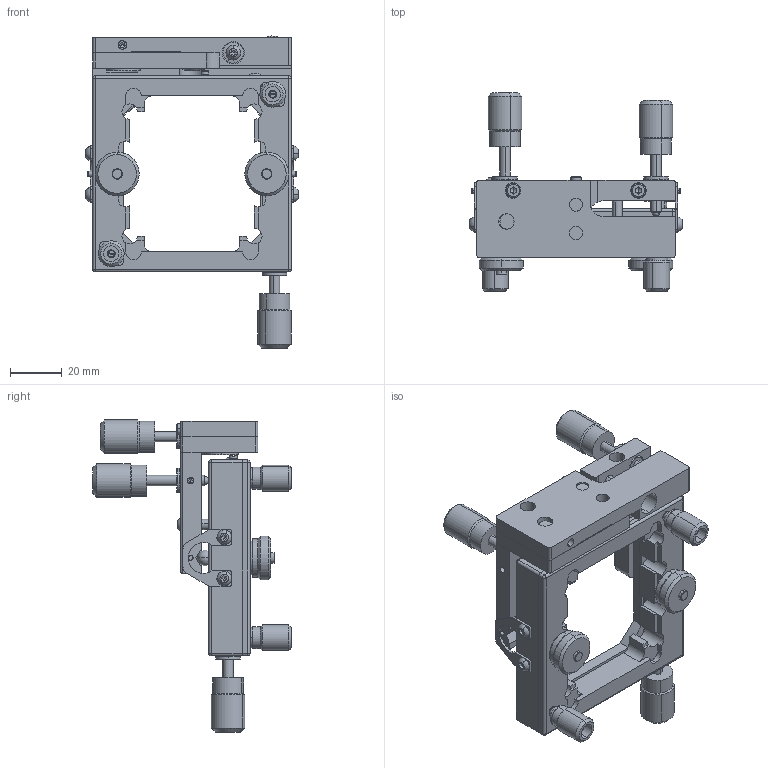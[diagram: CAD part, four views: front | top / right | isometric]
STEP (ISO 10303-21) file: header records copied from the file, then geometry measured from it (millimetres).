
FILE_DESCRIPTION (( 'STEP AP203' ), '1' );
FILE_NAME ('7MMC251翐醱噩殤.STEP', '2019-12-04T03:14:25', ( '' ), ( '' ), 'SwSTEP 2.0', 'SolidWorks 2018', '' );
FILE_SCHEMA (( 'CONFIG_CONTROL_DESIGN' ));
Length unit declared in the file: millimetre
Products named in the file (1): 7MMC251翐醱噩殤
Bounding box: 82.3 x 77 x 121 mm (x, y, z)
Volume: 88626.3 mm3; surface area: 60382.6 mm2
Topology: 63 solids, 63 shells, 1250 faces, 2911 edges, 1787 vertices
Faces by surface type: plane 543, cylinder 451, cone 188, sphere 54, torus 14
Entity records: 35606 total; most frequent: DIRECTION 6496, CARTESIAN_POINT 6457, ORIENTED_EDGE 5654, EDGE_CURVE 2827, AXIS2_PLACEMENT_3D 2486, VERTEX_POINT 1769, LINE 1524, VECTOR 1524
